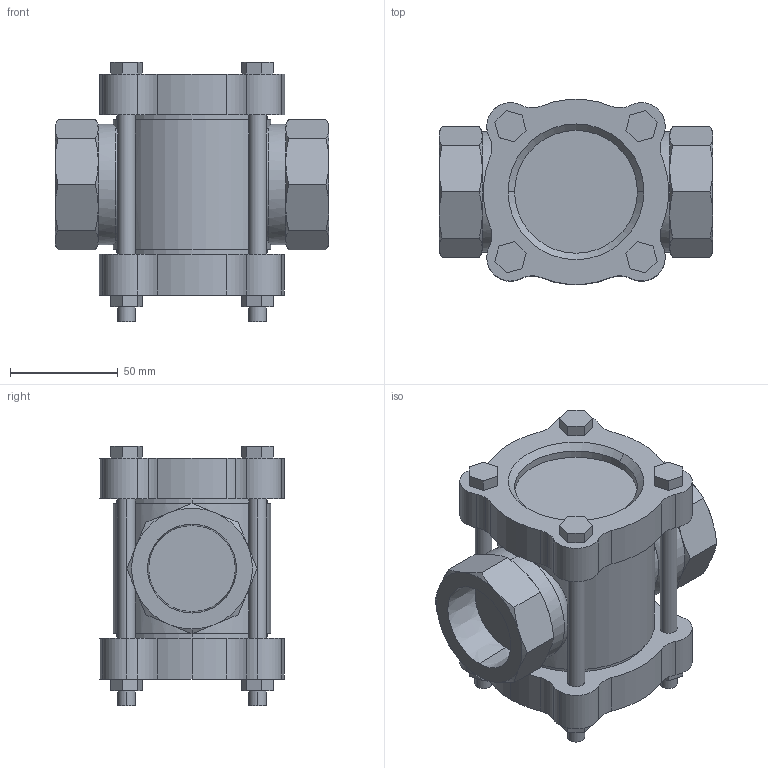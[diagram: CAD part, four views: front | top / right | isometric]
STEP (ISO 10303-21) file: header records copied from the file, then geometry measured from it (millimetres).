
FILE_DESCRIPTION (( 'STEP AP203' ), '1' );
FILE_NAME ('SF-1S 32A.STEP', '2024-09-06T01:13:21', ( '' ), ( '' ), 'SwSTEP 2.0', 'SolidWorks 2024', '' );
FILE_SCHEMA (( 'CONFIG_CONTROL_DESIGN' ));
Length unit declared in the file: millimetre
Products named in the file (1): SF-1S 32A
Bounding box: 127 x 85.74 x 120.5 mm (x, y, z)
Volume: 613174.5 mm3; surface area: 73321.8 mm2
Topology: 1 solids, 1 shells, 212 faces, 532 edges, 342 vertices
Faces by surface type: plane 88, cylinder 76, cone 44, torus 4
Entity records: 7179 total; most frequent: CARTESIAN_POINT 1995, ORIENTED_EDGE 1064, DIRECTION 1060, EDGE_CURVE 532, AXIS2_PLACEMENT_3D 407, VERTEX_POINT 342, EDGE_LOOP 248, VECTOR 246
